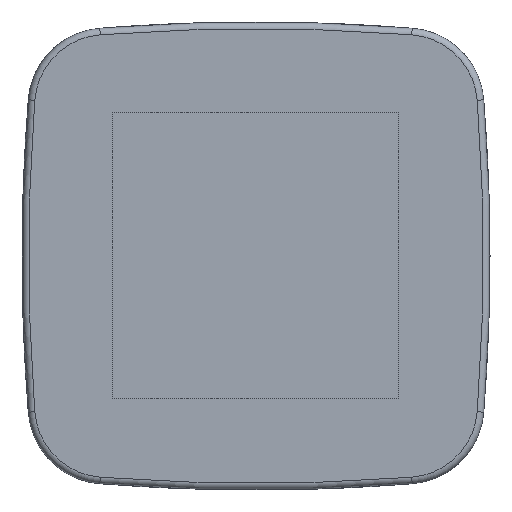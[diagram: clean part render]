
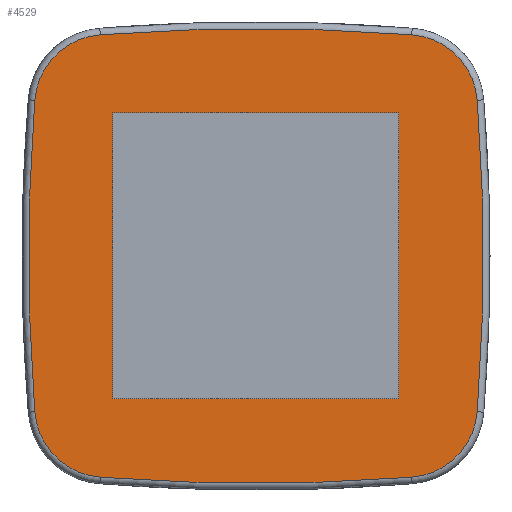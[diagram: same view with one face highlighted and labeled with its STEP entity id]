
A CAD part, front view. The second image highlights one B-rep face of the part: STEP entity #4529.
In plain terms, the highlighted planar face has unit normal (0, -1, 0).
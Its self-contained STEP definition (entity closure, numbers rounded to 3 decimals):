
#3071=DIRECTION('',(0.,0.,-1.));
#3072=VECTOR('',#3071,22.);
#3073=CARTESIAN_POINT('',(-11.,0.,11.));
#3074=LINE('',#3073,#3072);
#3075=DIRECTION('',(1.,0.,0.));
#3076=VECTOR('',#3075,22.);
#3077=CARTESIAN_POINT('',(-11.,0.,-11.));
#3078=LINE('',#3077,#3076);
#3079=DIRECTION('',(0.,0.,1.));
#3080=VECTOR('',#3079,22.);
#3081=CARTESIAN_POINT('',(11.,0.,-11.));
#3082=LINE('',#3081,#3080);
#3083=DIRECTION('',(-1.,0.,0.));
#3084=VECTOR('',#3083,22.);
#3085=CARTESIAN_POINT('',(11.,0.,11.));
#3086=LINE('',#3085,#3084);
#3087=CARTESIAN_POINT('',(132.,0.,0.));
#3088=DIRECTION('',(0.,-1.,0.));
#3089=DIRECTION('',(-0.997,0.,0.08));
#3090=AXIS2_PLACEMENT_3D('',#3087,#3088,#3089);
#3092=CARTESIAN_POINT('',(-11.537,0.,11.537));
#3093=DIRECTION('',(0.,-1.,0.));
#3094=DIRECTION('',(-0.08,0.,0.997));
#3095=AXIS2_PLACEMENT_3D('',#3092,#3093,#3094);
#3097=CARTESIAN_POINT('',(0.,0.,-132.));
#3098=DIRECTION('',(0.,-1.,0.));
#3099=DIRECTION('',(0.08,0.,0.997));
#3100=AXIS2_PLACEMENT_3D('',#3097,#3098,#3099);
#3102=CARTESIAN_POINT('',(11.537,0.,11.537));
#3103=DIRECTION('',(0.,-1.,0.));
#3104=DIRECTION('',(0.997,0.,0.08));
#3105=AXIS2_PLACEMENT_3D('',#3102,#3103,#3104);
#3107=CARTESIAN_POINT('',(-132.,0.,0.));
#3108=DIRECTION('',(0.,-1.,0.));
#3109=DIRECTION('',(0.997,0.,-0.08));
#3110=AXIS2_PLACEMENT_3D('',#3107,#3108,#3109);
#3112=CARTESIAN_POINT('',(11.537,0.,-11.537));
#3113=DIRECTION('',(0.,-1.,0.));
#3114=DIRECTION('',(0.08,0.,-0.997));
#3115=AXIS2_PLACEMENT_3D('',#3112,#3113,#3114);
#3117=CARTESIAN_POINT('',(0.,0.,132.));
#3118=DIRECTION('',(0.,-1.,0.));
#3119=DIRECTION('',(-0.08,0.,-0.997));
#3120=AXIS2_PLACEMENT_3D('',#3117,#3118,#3119);
#3122=CARTESIAN_POINT('',(-11.537,0.,-11.537));
#3123=DIRECTION('',(0.,-1.,0.));
#3124=DIRECTION('',(-0.997,0.,-0.08));
#3125=AXIS2_PLACEMENT_3D('',#3122,#3123,#3124);
#4345=CARTESIAN_POINT('',(-11.,0.,11.));
#4346=CARTESIAN_POINT('',(-11.,0.,-11.));
#4347=VERTEX_POINT('',#4345);
#4348=VERTEX_POINT('',#4346);
#4349=CARTESIAN_POINT('',(11.,0.,-11.));
#4350=VERTEX_POINT('',#4349);
#4351=CARTESIAN_POINT('',(11.,0.,11.));
#4352=VERTEX_POINT('',#4351);
#4392=CARTESIAN_POINT('',(-17.019,0.,11.978));
#4393=CARTESIAN_POINT('',(-17.019,0.,-11.978));
#4394=VERTEX_POINT('',#4392);
#4395=VERTEX_POINT('',#4393);
#4400=CARTESIAN_POINT('',(-11.978,0.,-17.019));
#4401=VERTEX_POINT('',#4400);
#4404=CARTESIAN_POINT('',(11.978,0.,-17.019));
#4405=VERTEX_POINT('',#4404);
#4408=CARTESIAN_POINT('',(17.019,0.,-11.978));
#4409=VERTEX_POINT('',#4408);
#4412=CARTESIAN_POINT('',(17.019,0.,11.978));
#4413=VERTEX_POINT('',#4412);
#4416=CARTESIAN_POINT('',(11.978,0.,17.019));
#4417=VERTEX_POINT('',#4416);
#4420=CARTESIAN_POINT('',(-11.978,0.,17.019));
#4421=VERTEX_POINT('',#4420);
#4496=CARTESIAN_POINT('',(0.,0.,0.));
#4497=DIRECTION('',(0.,1.,0.));
#4498=DIRECTION('',(1.,0.,0.));
#4499=AXIS2_PLACEMENT_3D('',#4496,#4497,#4498);
#4500=PLANE('',#4499);
#4502=ORIENTED_EDGE('',*,*,#4501,.F.);
#4504=ORIENTED_EDGE('',*,*,#4503,.F.);
#4506=ORIENTED_EDGE('',*,*,#4505,.F.);
#4508=ORIENTED_EDGE('',*,*,#4507,.F.);
#4510=ORIENTED_EDGE('',*,*,#4509,.F.);
#4512=ORIENTED_EDGE('',*,*,#4511,.F.);
#4514=ORIENTED_EDGE('',*,*,#4513,.F.);
#4516=ORIENTED_EDGE('',*,*,#4515,.F.);
#4517=EDGE_LOOP('',(#4502,#4504,#4506,#4508,#4510,#4512,#4514,#4516));
#4518=FACE_OUTER_BOUND('',#4517,.F.);
#4520=ORIENTED_EDGE('',*,*,#4519,.T.);
#4522=ORIENTED_EDGE('',*,*,#4521,.T.);
#4524=ORIENTED_EDGE('',*,*,#4523,.T.);
#4526=ORIENTED_EDGE('',*,*,#4525,.T.);
#4527=EDGE_LOOP('',(#4520,#4522,#4524,#4526));
#4528=FACE_BOUND('',#4527,.F.);
#3091=CIRCLE('',#3090,149.5);
#3096=CIRCLE('',#3095,5.5);
#3101=CIRCLE('',#3100,149.5);
#3106=CIRCLE('',#3105,5.5);
#3111=CIRCLE('',#3110,149.5);
#3116=CIRCLE('',#3115,5.5);
#3121=CIRCLE('',#3120,149.5);
#3126=CIRCLE('',#3125,5.5);
#4501=EDGE_CURVE('',#4394,#4395,#3091,.T.);
#4503=EDGE_CURVE('',#4421,#4394,#3096,.T.);
#4505=EDGE_CURVE('',#4417,#4421,#3101,.T.);
#4507=EDGE_CURVE('',#4413,#4417,#3106,.T.);
#4509=EDGE_CURVE('',#4409,#4413,#3111,.T.);
#4511=EDGE_CURVE('',#4405,#4409,#3116,.T.);
#4513=EDGE_CURVE('',#4401,#4405,#3121,.T.);
#4515=EDGE_CURVE('',#4395,#4401,#3126,.T.);
#4519=EDGE_CURVE('',#4347,#4348,#3074,.T.);
#4521=EDGE_CURVE('',#4348,#4350,#3078,.T.);
#4523=EDGE_CURVE('',#4350,#4352,#3082,.T.);
#4525=EDGE_CURVE('',#4352,#4347,#3086,.T.);
#4529=ADVANCED_FACE('',(#4518,#4528),#4500,.F.);
